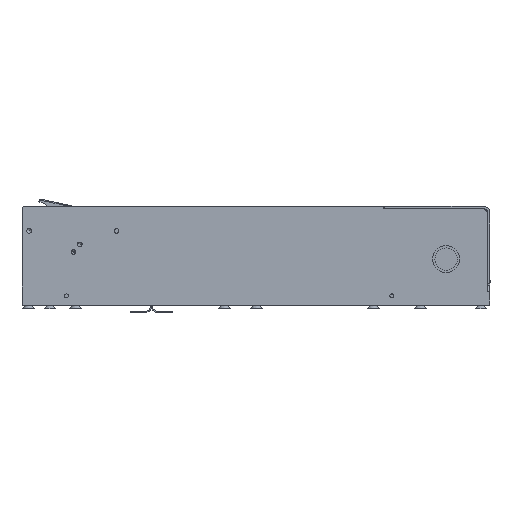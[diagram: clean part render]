
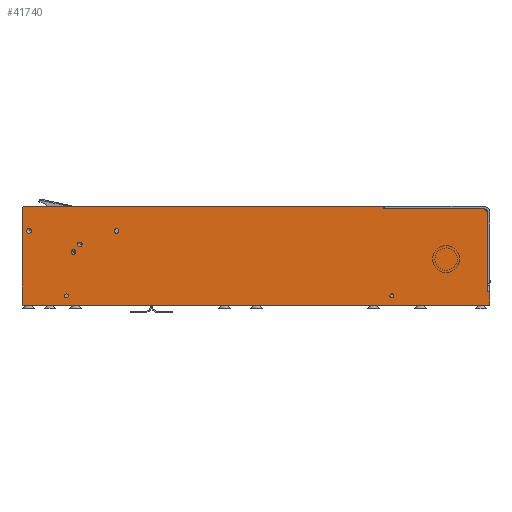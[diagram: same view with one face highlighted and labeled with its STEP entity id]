
A CAD part, left-side view. The second image highlights one B-rep face of the part: STEP entity #41740.
In plain terms, the highlighted planar face has unit normal (-1, 0, 0).
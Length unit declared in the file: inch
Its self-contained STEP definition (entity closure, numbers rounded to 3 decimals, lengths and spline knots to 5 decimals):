
#41586=CARTESIAN_POINT('',(-9.275,-6.14,1.39902));
#41587=DIRECTION('',(1.0,0.0,0.0));
#41588=DIRECTION('',(0.0,1.0,0.0));
#41589=AXIS2_PLACEMENT_3D('',#41586,#41587,#41588);
#41590=PLANE('',#41589);
#41591=CARTESIAN_POINT('',(-9.275,0.375,2.70403));
#41592=VERTEX_POINT('',#41591);
#41593=CARTESIAN_POINT('',(-9.275,0.281,2.79803));
#41594=VERTEX_POINT('',#41593);
#41595=CARTESIAN_POINT('',(-9.275,0.281,2.70403));
#41596=DIRECTION('',(1.,0.,0.));
#41597=DIRECTION('',(0.,0.707,0.707));
#41598=AXIS2_PLACEMENT_3D('',#41595,#41596,#41597);
#41599=CIRCLE('',#41598,0.094);
#41600=EDGE_CURVE('',#41592,#41594,#41599,.T.);
#41601=ORIENTED_EDGE('',*,*,#41600,.F.);
#41602=CARTESIAN_POINT('',(-9.275,0.375,0.04331));
#41603=VERTEX_POINT('',#41602);
#41604=CARTESIAN_POINT('',(-9.275,0.375,2.70403));
#41605=DIRECTION('',(0.0,0.0,-1.0));
#41606=VECTOR('',#41605,2.66072);
#41607=LINE('',#41604,#41606);
#41608=EDGE_CURVE('',#41592,#41603,#41607,.T.);
#41609=ORIENTED_EDGE('',*,*,#41608,.T.);
#41610=CARTESIAN_POINT('',(-9.275,-12.655,0.04331));
#41611=VERTEX_POINT('',#41610);
#41612=CARTESIAN_POINT('',(-9.275,0.375,0.04331));
#41613=DIRECTION('',(0.0,-1.0,0.0));
#41614=VECTOR('',#41613,13.03);
#41615=LINE('',#41612,#41614);
#41616=EDGE_CURVE('',#41603,#41611,#41615,.T.);
#41617=ORIENTED_EDGE('',*,*,#41616,.T.);
#41618=CARTESIAN_POINT('',(-9.275,-12.655,0.41417));
#41619=VERTEX_POINT('',#41618);
#41620=CARTESIAN_POINT('',(-9.275,-12.655,0.04331));
#41621=DIRECTION('',(0.0,0.0,1.0));
#41622=VECTOR('',#41621,0.37087);
#41623=LINE('',#41620,#41622);
#41624=EDGE_CURVE('',#41611,#41619,#41623,.T.);
#41625=ORIENTED_EDGE('',*,*,#41624,.T.);
#41626=CARTESIAN_POINT('',(-9.275,-12.59201,0.41417));
#41627=VERTEX_POINT('',#41626);
#41628=CARTESIAN_POINT('',(-9.275,-12.655,0.41417));
#41629=DIRECTION('',(0.0,1.0,0.0));
#41630=VECTOR('',#41629,0.06299);
#41631=LINE('',#41628,#41630);
#41632=EDGE_CURVE('',#41619,#41627,#41631,.T.);
#41633=ORIENTED_EDGE('',*,*,#41632,.T.);
#41634=CARTESIAN_POINT('',(-9.275,-12.59201,2.61004));
#41635=VERTEX_POINT('',#41634);
#41636=CARTESIAN_POINT('',(-9.275,-12.59201,0.41417));
#41637=DIRECTION('',(0.0,0.0,1.0));
#41638=VECTOR('',#41637,2.19587);
#41639=LINE('',#41636,#41638);
#41640=EDGE_CURVE('',#41627,#41635,#41639,.T.);
#41641=ORIENTED_EDGE('',*,*,#41640,.T.);
#41642=CARTESIAN_POINT('',(-9.275,-12.46701,2.73504));
#41643=VERTEX_POINT('',#41642);
#41644=CARTESIAN_POINT('',(-9.275,-12.46701,2.73504));
#41645=DIRECTION('',(0.,-0.707,-0.707));
#41646=VECTOR('',#41645,0.17678);
#41647=LINE('',#41644,#41646);
#41648=EDGE_CURVE('',#41643,#41635,#41647,.T.);
#41649=ORIENTED_EDGE('',*,*,#41648,.F.);
#41650=CARTESIAN_POINT('',(-9.275,-9.70224,2.73504));
#41651=VERTEX_POINT('',#41650);
#41652=CARTESIAN_POINT('',(-9.275,-12.46701,2.73504));
#41653=DIRECTION('',(0.0,1.0,0.0));
#41654=VECTOR('',#41653,2.76476);
#41655=LINE('',#41652,#41654);
#41656=EDGE_CURVE('',#41643,#41651,#41655,.T.);
#41657=ORIENTED_EDGE('',*,*,#41656,.T.);
#41658=CARTESIAN_POINT('',(-9.275,-9.70224,2.79803));
#41659=VERTEX_POINT('',#41658);
#41660=CARTESIAN_POINT('',(-9.275,-9.70224,2.73504));
#41661=DIRECTION('',(0.0,0.0,1.0));
#41662=VECTOR('',#41661,0.06299);
#41663=LINE('',#41660,#41662);
#41664=EDGE_CURVE('',#41651,#41659,#41663,.T.);
#41665=ORIENTED_EDGE('',*,*,#41664,.T.);
#41666=CARTESIAN_POINT('',(-9.275,-9.70224,2.79803));
#41667=DIRECTION('',(0.0,1.0,0.0));
#41668=VECTOR('',#41667,9.98324);
#41669=LINE('',#41666,#41668);
#41670=EDGE_CURVE('',#41659,#41594,#41669,.T.);
#41671=ORIENTED_EDGE('',*,*,#41670,.T.);
#41672=EDGE_LOOP('',(#41601,#41609,#41617,#41625,#41633,#41641,#41649,#41657,#41665,#41671));
#41673=FACE_OUTER_BOUND('',#41672,.T.);
#41674=CARTESIAN_POINT('',(-9.275,0.11319,2.11024));
#41675=VERTEX_POINT('',#41674);
#41676=CARTESIAN_POINT('',(-9.275,0.17815,2.11024));
#41677=DIRECTION('',(1.0,0.0,0.0));
#41678=DIRECTION('',(0.0,-1.0,0.0));
#41679=AXIS2_PLACEMENT_3D('',#41676,#41677,#41678);
#41680=CIRCLE('',#41679,0.06496);
#41681=EDGE_CURVE('',#41675,#41675,#41680,.T.);
#41682=ORIENTED_EDGE('',*,*,#41681,.T.);
#41683=EDGE_LOOP('',(#41682));
#41684=FACE_BOUND('',#41683,.T.);
#41685=CARTESIAN_POINT('',(-9.275,-1.12657,1.5185));
#41686=VERTEX_POINT('',#41685);
#41687=CARTESIAN_POINT('',(-9.275,-1.06161,1.5185));
#41688=DIRECTION('',(1.0,0.0,0.0));
#41689=DIRECTION('',(0.0,-1.0,0.0));
#41690=AXIS2_PLACEMENT_3D('',#41687,#41688,#41689);
#41691=CIRCLE('',#41690,0.06496);
#41692=EDGE_CURVE('',#41686,#41686,#41691,.T.);
#41693=ORIENTED_EDGE('',*,*,#41692,.T.);
#41694=EDGE_LOOP('',(#41693));
#41695=FACE_BOUND('',#41694,.T.);
#41696=CARTESIAN_POINT('',(-9.275,-2.32181,2.10906));
#41697=VERTEX_POINT('',#41696);
#41698=CARTESIAN_POINT('',(-9.275,-2.25681,2.10906));
#41699=DIRECTION('',(1.0,0.0,0.0));
#41700=DIRECTION('',(0.0,1.0,0.0));
#41701=AXIS2_PLACEMENT_3D('',#41698,#41699,#41700);
#41702=CIRCLE('',#41701,0.065);
#41703=EDGE_CURVE('',#41697,#41697,#41702,.T.);
#41704=ORIENTED_EDGE('',*,*,#41703,.T.);
#41705=EDGE_LOOP('',(#41704));
#41706=FACE_BOUND('',#41705,.T.);
#41707=CARTESIAN_POINT('',(-9.275,-1.29819,1.73504));
#41708=VERTEX_POINT('',#41707);
#41709=CARTESIAN_POINT('',(-9.275,-1.23319,1.73504));
#41710=DIRECTION('',(1.0,0.0,0.0));
#41711=DIRECTION('',(0.0,1.0,0.0));
#41712=AXIS2_PLACEMENT_3D('',#41709,#41710,#41711);
#41713=CIRCLE('',#41712,0.065);
#41714=EDGE_CURVE('',#41708,#41708,#41713,.T.);
#41715=ORIENTED_EDGE('',*,*,#41714,.T.);
#41716=EDGE_LOOP('',(#41715));
#41717=FACE_BOUND('',#41716,.T.);
#41718=CARTESIAN_POINT('',(-9.275,-0.91572,0.30075));
#41719=VERTEX_POINT('',#41718);
#41720=CARTESIAN_POINT('',(-9.275,-0.86122,0.30075));
#41721=DIRECTION('',(1.0,0.0,0.0));
#41722=DIRECTION('',(0.0,1.0,0.0));
#41723=AXIS2_PLACEMENT_3D('',#41720,#41721,#41722);
#41724=CIRCLE('',#41723,0.0545);
#41725=EDGE_CURVE('',#41719,#41719,#41724,.T.);
#41726=ORIENTED_EDGE('',*,*,#41725,.T.);
#41727=EDGE_LOOP('',(#41726));
#41728=FACE_BOUND('',#41727,.T.);
#41729=CARTESIAN_POINT('',(-9.275,-9.97328,0.30075));
#41730=VERTEX_POINT('',#41729);
#41731=CARTESIAN_POINT('',(-9.275,-9.91878,0.30075));
#41732=DIRECTION('',(1.0,0.0,0.0));
#41733=DIRECTION('',(0.0,1.0,0.0));
#41734=AXIS2_PLACEMENT_3D('',#41731,#41732,#41733);
#41735=CIRCLE('',#41734,0.0545);
#41736=EDGE_CURVE('',#41730,#41730,#41735,.T.);
#41737=ORIENTED_EDGE('',*,*,#41736,.T.);
#41738=EDGE_LOOP('',(#41737));
#41739=FACE_BOUND('',#41738,.T.);
#41740=ADVANCED_FACE('',(#41673,#41684,#41695,#41706,#41717,#41728,#41739),#41590,.F.);
